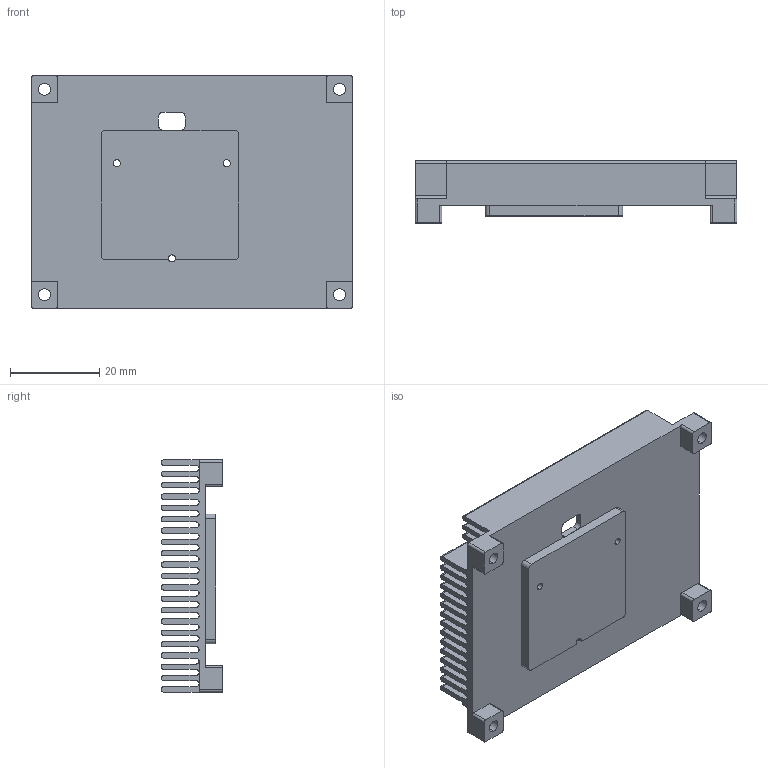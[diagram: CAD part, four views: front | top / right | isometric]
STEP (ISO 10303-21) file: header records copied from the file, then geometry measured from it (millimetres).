
FILE_DESCRIPTION (( 'STEP AP214' ), '1' );
FILE_NAME ('ﾂｳｰ狹ｨ4ｺﾋﾐﾄｰ衙｢ﾈﾈﾆｬ20251031.STEP', '2025-10-31T02:58:28', ( '' ), ( '' ), 'SwSTEP 2.0', 'SolidWorks 2023', '' );
FILE_SCHEMA (( 'AUTOMOTIVE_DESIGN' ));
Length unit declared in the file: millimetre
Products named in the file (1): 鲁班猫4核心板散热片20251031
Bounding box: 72 x 13.84 x 52 mm (x, y, z)
Volume: 17390.8 mm3; surface area: 24085.1 mm2
Topology: 1 solids, 1 shells, 346 faces, 944 edges, 600 vertices
Faces by surface type: cylinder 223, plane 121, torus 2
Entity records: 11607 total; most frequent: CARTESIAN_POINT 2831, ORIENTED_EDGE 1888, DIRECTION 1798, EDGE_CURVE 944, AXIS2_PLACEMENT_3D 639, VERTEX_POINT 600, LINE 520, VECTOR 520
